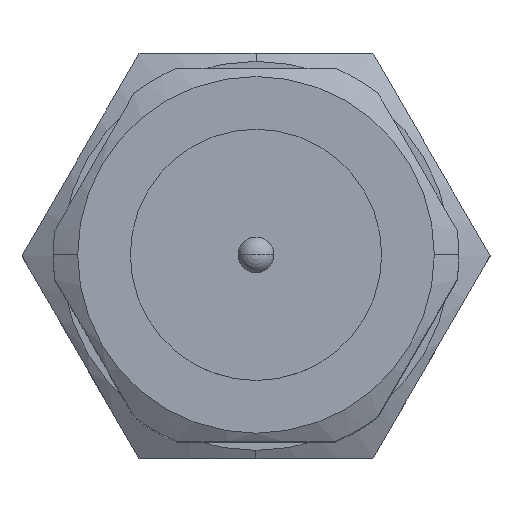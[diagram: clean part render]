
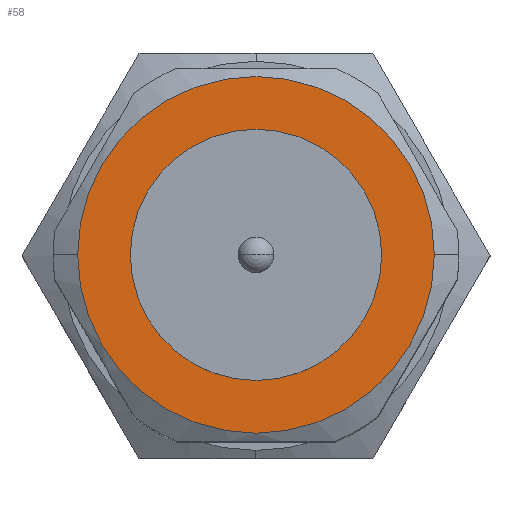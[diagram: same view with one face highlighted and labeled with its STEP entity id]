
A CAD part, top view. The second image highlights one B-rep face of the part: STEP entity #58.
In plain terms, the highlighted planar face has unit normal (0, 0, 1).
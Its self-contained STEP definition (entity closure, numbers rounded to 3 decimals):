
#58=ADVANCED_FACE('',(#265,#266),#264,.T.);
#264=PLANE('',#591);
#265=FACE_OUTER_BOUND('',#592,.T.);
#266=FACE_BOUND('',#593,.T.);
#588=CARTESIAN_POINT('',(-28.6,-45.726,111.5));
#589=DIRECTION('',(0.,0.,1.));
#590=DIRECTION('',(1.,0.,0.));
#591=AXIS2_PLACEMENT_3D('',#588,#589,#590);
#592=EDGE_LOOP('',(#866,#867));
#593=EDGE_LOOP('',(#868,#869));
#866=ORIENTED_EDGE('',*,*,#1064,.F.);
#867=ORIENTED_EDGE('',*,*,#1065,.F.);
#868=ORIENTED_EDGE('',*,*,#1066,.T.);
#869=ORIENTED_EDGE('',*,*,#1067,.T.);
#1064=EDGE_CURVE('',#1566,#1567,#1568,.T.);
#1065=EDGE_CURVE('',#1567,#1566,#1574,.T.);
#1066=EDGE_CURVE('',#1580,#1581,#1582,.T.);
#1067=EDGE_CURVE('',#1581,#1580,#1588,.T.);
#1566=VERTEX_POINT('',#2313);
#1567=VERTEX_POINT('',#2314);
#1568=CIRCLE('',#2318,22.);
#1574=CIRCLE('',#2322,22.);
#1580=VERTEX_POINT('',#2323);
#1581=VERTEX_POINT('',#2324);
#1582=CIRCLE('',#2328,15.5);
#1588=CIRCLE('',#2332,15.5);
#2313=CARTESIAN_POINT('',(22.,0.,111.5));
#2314=CARTESIAN_POINT('',(-22.,0.,111.5));
#2315=CARTESIAN_POINT('',(0.,0.,111.5));
#2316=DIRECTION('',(0.,0.,-1.));
#2317=DIRECTION('',(-1.,0.,0.));
#2318=AXIS2_PLACEMENT_3D('',#2315,#2316,#2317);
#2319=CARTESIAN_POINT('',(0.,0.,111.5));
#2320=DIRECTION('',(0.,0.,-1.));
#2321=DIRECTION('',(-1.,0.,0.));
#2322=AXIS2_PLACEMENT_3D('',#2319,#2320,#2321);
#2323=CARTESIAN_POINT('',(-15.5,0.,111.5));
#2324=CARTESIAN_POINT('',(15.5,0.,111.5));
#2325=CARTESIAN_POINT('',(0.,0.,111.5));
#2326=DIRECTION('',(0.,0.,-1.));
#2327=DIRECTION('',(-1.,0.,0.));
#2328=AXIS2_PLACEMENT_3D('',#2325,#2326,#2327);
#2329=CARTESIAN_POINT('',(0.,0.,111.5));
#2330=DIRECTION('',(0.,0.,-1.));
#2331=DIRECTION('',(-1.,0.,0.));
#2332=AXIS2_PLACEMENT_3D('',#2329,#2330,#2331);
